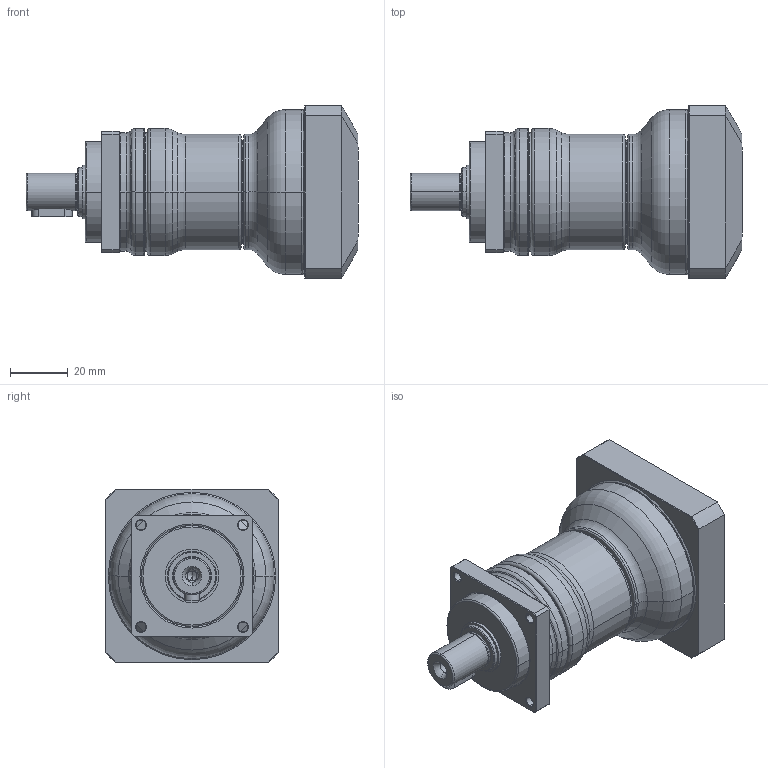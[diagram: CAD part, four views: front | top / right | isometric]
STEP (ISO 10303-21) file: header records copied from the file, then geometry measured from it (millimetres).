
FILE_DESCRIPTION((''),'2;1');
FILE_NAME('PA2-042_2ST_11-P0411200101_ASM','2016-05-06T',('d01943'),(''),'PRO/ENGINEER BY PARAMETRIC TECHNOLOGY CORPORATION, 2008410','PRO/ENGINEER BY PARAMETRIC TECHNOLOGY CORPORATION, 2008410','');
FILE_SCHEMA(('CONFIG_CONTROL_DESIGN'));
Length unit declared in the file: millimetre
Products named in the file (9): P1327100001; P0251100001; P1324100101; P0350100601; P0941101001; P0503200005; P0411200101; P1702300001; PA2-042_2ST_11-P0411200101_ASM
Assembly tree (8 placements, depth 2):
  PA2-042_2ST_11-P0411200101_ASM
    P1327100001
    P0251100001
    P1324100101
    P0350100601
    P0941101001
    P0503200005
    P0411200101
    P1702300001
Bounding box: 115 x 60 x 60 mm (x, y, z)
Volume: 123567.8 mm3; surface area: 51989 mm2
Topology: 8 solids, 8 shells, 476 faces, 1041 edges, 600 vertices
Faces by surface type: cone 148, cylinder 133, torus 92, plane 87, bspline 16
Entity records: 17699 total; most frequent: CARTESIAN_POINT 6987, DIRECTION 2428, ORIENTED_EDGE 2042, AXIS2_PLACEMENT_3D 1037, EDGE_CURVE 1021, VERTEX_POINT 600, CIRCLE 560, EDGE_LOOP 539
